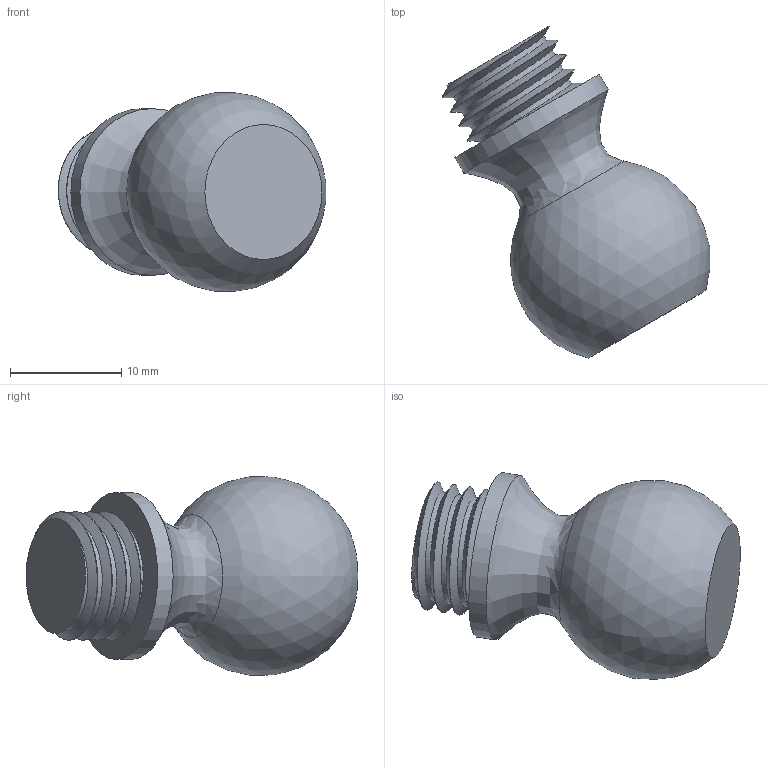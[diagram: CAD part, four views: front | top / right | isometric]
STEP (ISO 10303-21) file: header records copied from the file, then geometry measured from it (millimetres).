
FILE_DESCRIPTION(/* description */ (''),/* implementation_level */ '2;1');
FILE_NAME(/* name */ 'C:/Users/arthu/Desktop/3D/Porte portap/step_files/Ball Joint.step',/* time_stamp */ '2021-01-11T17:19:46+01:00',/* author */ (''),/* organization */ (''),/* preprocessor_version */ 'ST-DEVELOPER v18.1',/* originating_system */ 'Autodesk Translation Framework v9.7.1.1290',/* authorisation */ '');
FILE_SCHEMA (('AUTOMOTIVE_DESIGN { 1 0 10303 214 3 1 1 }'));
Length unit declared in the file: millimetre
Products named in the file (1): Ball Joint
Bounding box: 24.05 x 29.86 x 17.85 mm (x, y, z)
Volume: 4190.5 mm3; surface area: 1740.5 mm2
Topology: 1 solids, 1 shells, 18 faces, 45 edges, 30 vertices
Faces by surface type: cylinder 11, bspline 3, plane 3, sphere 1
Full cylindrical faces by diameter (mm): 9.837 x3, 11.55 x3, 15 x1
Entity records: 1981 total; most frequent: CARTESIAN_POINT 1556, ORIENTED_EDGE 90, DIRECTION 63, EDGE_CURVE 45, VERTEX_POINT 30, AXIS2_PLACEMENT_3D 27, B_SPLINE_CURVE_WITH_KNOTS 24, EDGE_LOOP 19
